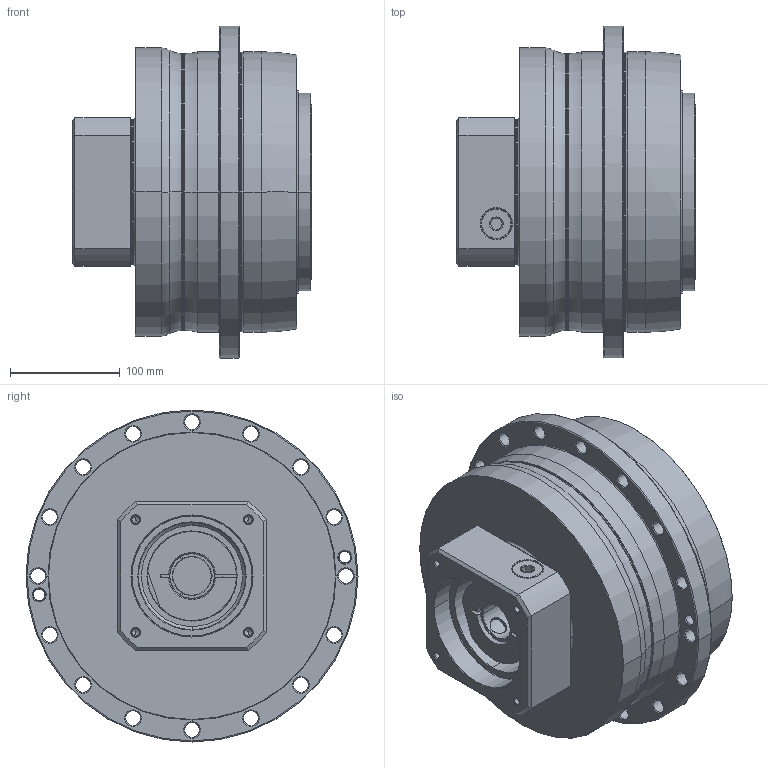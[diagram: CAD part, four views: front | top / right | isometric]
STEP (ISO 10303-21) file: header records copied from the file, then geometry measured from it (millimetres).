
FILE_DESCRIPTION((''),'2;1');
FILE_NAME('AH255_1ST_35-P0409800101_ASM','2016-09-30T',('d00435'),(''),'PRO/ENGINEER BY PARAMETRIC TECHNOLOGY CORPORATION, 2008410','PRO/ENGINEER BY PARAMETRIC TECHNOLOGY CORPORATION, 2008410','');
FILE_SCHEMA(('CONFIG_CONTROL_DESIGN'));
Length unit declared in the file: millimetre
Products named in the file (8): P0278700003; P0359700003; P1318700001; P0409800101; P0503800012; P0912700201; 21711422019; AH255_1ST_35-P0409800101_ASM
Assembly tree (7 placements, depth 2):
  AH255_1ST_35-P0409800101_ASM
    P0278700003
    P0359700003
    P1318700001
    P0409800101
    P0503800012
    P0912700201
    21711422019
Bounding box: 218 x 302 x 302 mm (x, y, z)
Volume: 8809403.1 mm3; surface area: 686713.2 mm2
Topology: 8 solids, 34 shells, 652 faces, 1539 edges, 929 vertices
Faces by surface type: cylinder 270, cone 192, plane 116, torus 60, bspline 14
Entity records: 23355 total; most frequent: CARTESIAN_POINT 7889, DIRECTION 3555, ORIENTED_EDGE 2882, AXIS2_PLACEMENT_3D 1511, EDGE_CURVE 1493, VERTEX_POINT 929, CIRCLE 846, EDGE_LOOP 774
